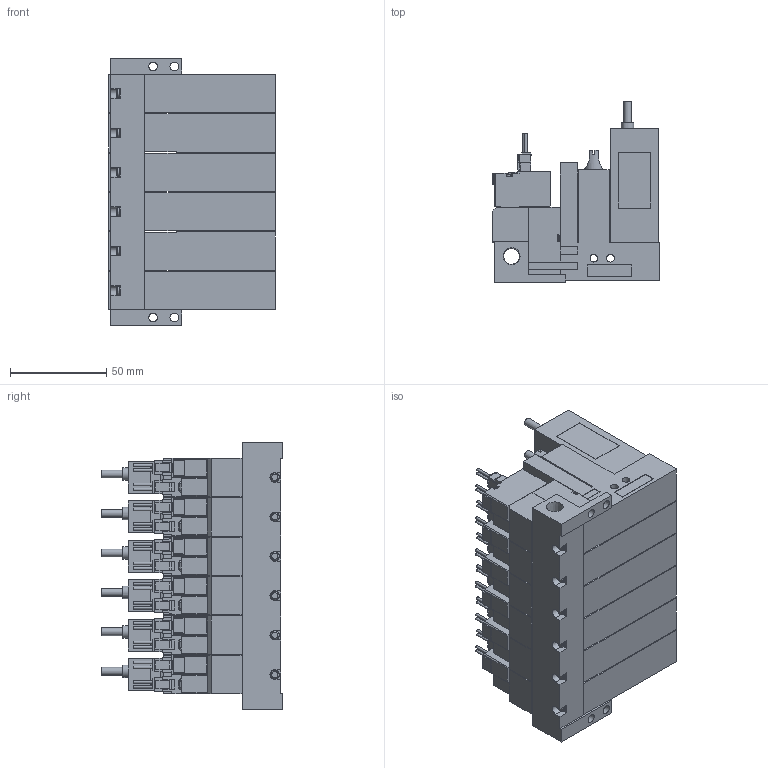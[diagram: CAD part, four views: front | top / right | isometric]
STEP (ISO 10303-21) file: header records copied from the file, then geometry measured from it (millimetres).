
FILE_DESCRIPTION(('STEP AP203'),'1');
FILE_NAME('VG_VGPL5ALR606.stp','2025-02-19T02:20:36',(' '),(' '),'Spatial InterOp 3D',' ',' ');
FILE_SCHEMA(('CONFIG_CONTROL_DESIGN'));
Length unit declared in the file: millimetre
Products named in the file (5): BMC22M※※※※VG_VGPL5ALR606; Solenoid valve A; Pressure sensor VGL; Unit L; Base MR60R
Assembly tree (19 placements, depth 2):
  BMC22M※※※※VG_VGPL5ALR606
    Solenoid valve A  x6
    Pressure sensor VGL  x6
    Unit L  x6
    Base MR60R
Bounding box: 86.6 x 94 x 138.5 mm (x, y, z)
Volume: 601420.3 mm3; surface area: 161724 mm2
Topology: 19 solids, 19 shells, 2295 faces, 6137 edges, 4054 vertices
Faces by surface type: plane 1934, cylinder 299, cone 44, torus 18
Full cylindrical faces by diameter (mm): 1.4 x24, 2.5 x18, 3 x24, 3.5 x24, 3.6 x6, 4 x36, 4.134 x6, 4.5 x4, 5.2 x6, 6 x6, 6.5 x6, 6.6 x6, 8.279 x1
Entity records: 14781 total; most frequent: CARTESIAN_POINT 2815, DIRECTION 2365, ORIENTED_EDGE 2290, EDGE_CURVE 1145, LINE 915, VECTOR 915, VERTEX_POINT 805, AXIS2_PLACEMENT_3D 725
